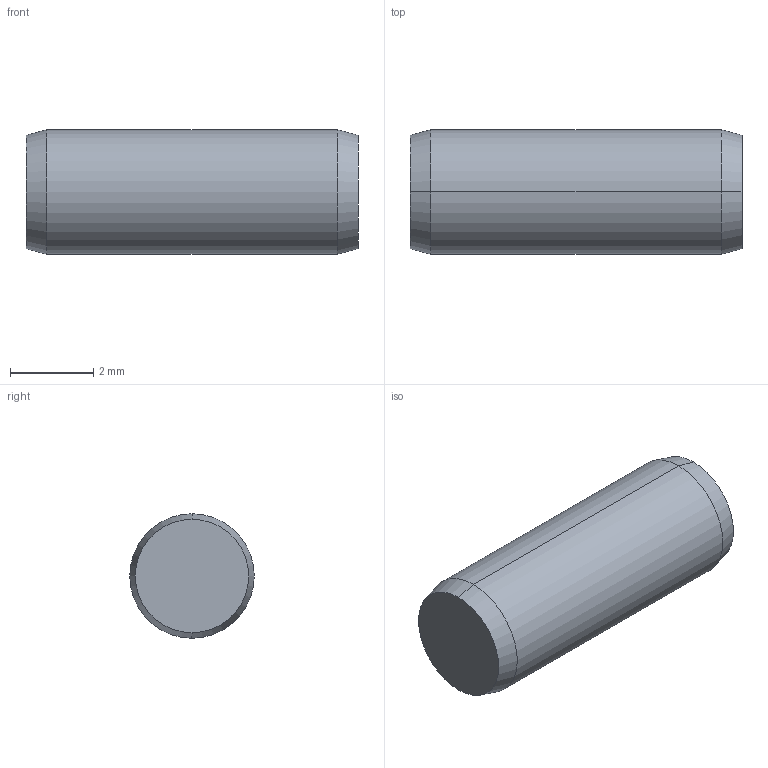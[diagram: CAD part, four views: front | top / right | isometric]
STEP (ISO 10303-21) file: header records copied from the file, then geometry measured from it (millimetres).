
FILE_DESCRIPTION (( 'STEP AP203' ), '1' );
FILE_NAME ('P1206.030-008.step', '2017-06-14T08:03:18', ( 'User' ), ( '' ), 'SwSTEP 2.0', 'SolidWorks 2009', '' );
FILE_SCHEMA (( 'CONFIG_CONTROL_DESIGN' ));
Length unit declared in the file: millimetre
Products named in the file (1): P1206.030-008
Bounding box: 8 x 3 x 3 mm (x, y, z)
Volume: 55.9 mm3; surface area: 87 mm2
Topology: 1 solids, 1 shells, 8 faces, 14 edges, 8 vertices
Faces by surface type: cone 4, cylinder 2, plane 2
Entity records: 271 total; most frequent: DIRECTION 40, CARTESIAN_POINT 31, ORIENTED_EDGE 28, AXIS2_PLACEMENT_3D 17, EDGE_CURVE 14, EDGE_LOOP 8, ADVANCED_FACE 8, VERTEX_POINT 8
